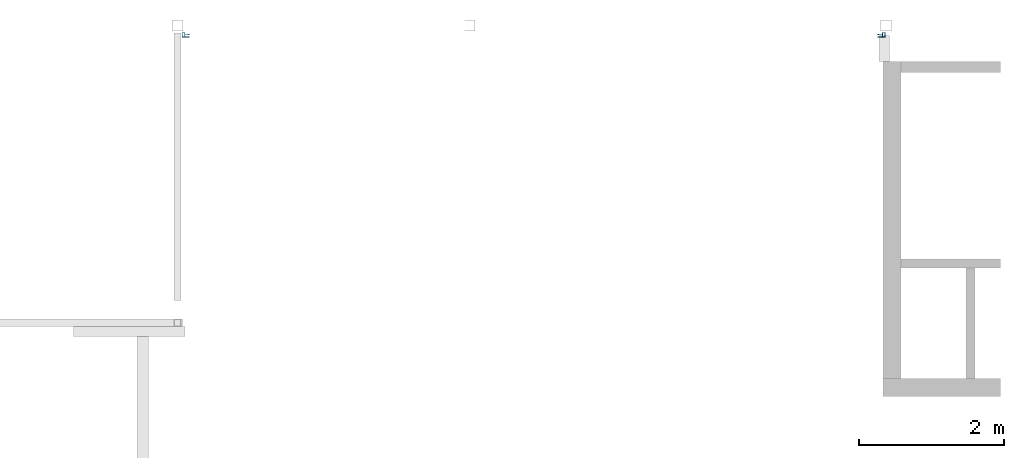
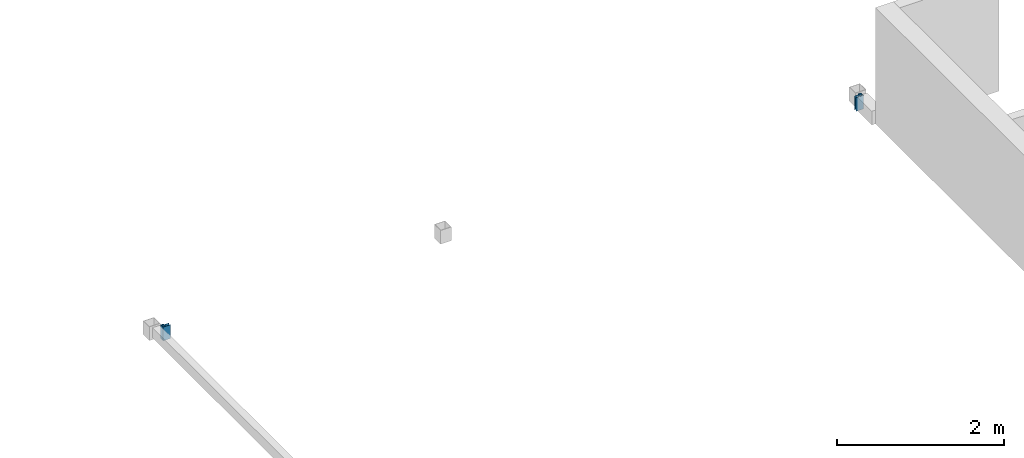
# One storey, part 2 of 2: 2 columns.
"""IFC2X3 building model written with IfcOpenShell, lengths in millimetres."""

from ifc_helpers import new_model, entity, si_unit, converted_unit, derived_unit, direction, frame, origin, origin_with_axes, place, context, subcontext, project, spatial, faceted_brep, source, transform, mapped, material, type_object, element, save


model = new_model("IFC2X3")

# Units and contexts
model_context = context("Model", 3, precision=0.01, world=frame((0.0, 4.29681676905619e-09, 0.0)), true_north=direction((4.01073788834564e-13, 1.0)))
plan_context = context("Plan", 3, precision=0.01, world=frame((0.0, 4.29681676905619e-09, 0.0)), true_north=direction((4.01073788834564e-13, 1.0)))
body_context = subcontext(model_context, "Body", "Model", "MODEL_VIEW")
ifc_project = project(units=[converted_unit("PLANEANGLEUNIT", "DEGREE", entity("IfcPositiveLengthMeasure", 0.0174532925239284), si_unit("PLANEANGLEUNIT", "RADIAN"), dimensions=[0, 0, 0, 0, 0, 0, 0]), si_unit("AREAUNIT", "SQUARE_METRE"), si_unit("LENGTHUNIT", "METRE", prefix="MILLI"), si_unit("MASSUNIT", "GRAM", prefix="KILO"), si_unit("POWERUNIT", "WATT"), si_unit("PRESSUREUNIT", "PASCAL"), si_unit("FORCEUNIT", "NEWTON", prefix="KILO"), si_unit("ELECTRICVOLTAGEUNIT", "VOLT"), si_unit("ELECTRICCURRENTUNIT", "AMPERE"), si_unit("THERMODYNAMICTEMPERATUREUNIT", "DEGREE_CELSIUS"), si_unit("TIMEUNIT", "SECOND"), si_unit("VOLUMEUNIT", "CUBIC_METRE"), derived_unit("LINEARVELOCITYUNIT", [(si_unit("LENGTHUNIT", "METRE"), 1), (si_unit("TIMEUNIT", "SECOND"), -1)]), derived_unit("VOLUMETRICFLOWRATEUNIT", [(si_unit("VOLUMEUNIT", "CUBIC_METRE"), 1), (si_unit("TIMEUNIT", "SECOND"), -1)]), derived_unit("THERMALTRANSMITTANCEUNIT", [(si_unit("POWERUNIT", "WATT"), 1), (si_unit("THERMODYNAMICTEMPERATUREUNIT", "KELVIN"), -1), (si_unit("AREAUNIT", "SQUARE_METRE"), -1)]), derived_unit("SOUNDPRESSUREUNIT", [(si_unit("PRESSUREUNIT", "PASCAL"), 1)])], contexts=[model_context, plan_context])

# Site, building, storey
site_placement = place(None, origin_with_axes())
site = spatial("IfcSite", under=ifc_project, at=site_placement, Name="ENGM", CompositionType="ELEMENT")
building_placement = place(site_placement, origin_with_axes())
building = spatial("IfcBuilding", under=site, at=building_placement, Name="TS", CompositionType="ELEMENT")
storey_placement = place(building_placement, frame((0.0, 0.0, 213700.0), z_axis=(0.0, 0.0, 1.0), x_axis=(1.0, 0.0, 0.0)))
storey = spatial("IfcBuildingStorey", under=building, at=storey_placement, Name="Nivå G - 2,0m", CompositionType="ELEMENT", Elevation=213700.0)

# Columns
ifc_material = material(Name="_NSW Stål")
column_type_1 = type_object("IfcColumnType", Name="A243 - Rullegardinskinner1:A243 - Portskinne Trav Val Innl", PredefinedType="COLUMN", material=ifc_material)
shared_shape_1 = source(origin(), body_context, "Body", "Brep", [
    faceted_brep([(-20.0, 100.0, 213900.0), (-14.0, 100.0, 213900.0), (-14.0, 100.0, 213700.0), (-20.0, 100.0, 213700.0), (-14.0, 90.0, 213900.0), (-14.0, 90.0, 213700.0), (-17.0, 90.0, 213900.0), (-17.0, 90.0, 213700.0), (-17.0, 38.0, 213900.0), (-17.0, 38.0, 213700.0), (17.0, 38.0, 213900.0), (17.0, 38.0, 213700.0), (17.0, 90.0, 213900.0), (17.0, 90.0, 213700.0), (14.0, 90.0, 213900.0), (14.0, 90.0, 213700.0), (14.0, 100.0, 213900.0), (14.0, 100.0, 213700.0), (20.0, 100.0, 213900.0), (20.0, 100.0, 213700.0), (20.0, 0.0, 213900.0), (20.0, 0.0, 213700.0), (-40.0, 0.0, 213900.0), (-40.0, 0.0, 213700.0), (-40.0, 38.0, 213900.0), (-40.0, 38.0, 213700.0), (-20.0, 38.0, 213900.0), (-20.0, 38.0, 213700.0), (-37.0, 3.0, 213900.0), (17.0, 3.0, 213900.0), (17.0, 3.0, 213700.0), (-37.0, 3.0, 213700.0), (17.0, 35.0, 213900.0), (17.0, 35.0, 213700.0), (-37.0, 35.0, 213900.0), (-37.0, 35.0, 213700.0)], [[[0, 1, 2, 3]], [[1, 4, 5, 2]], [[4, 6, 7, 5]], [[6, 8, 9, 7]], [[8, 10, 11, 9]], [[10, 12, 13, 11]], [[12, 14, 15, 13]], [[14, 16, 17, 15]], [[16, 18, 19, 17]], [[18, 20, 21, 19]], [[20, 22, 23, 21]], [[22, 24, 25, 23]], [[24, 26, 27, 25]], [[26, 0, 3, 27]], [[28, 29, 30, 31]], [[29, 32, 33, 30]], [[32, 34, 35, 33]], [[34, 28, 31, 35]], [[1, 0, 26, 24, 22, 20, 18, 16, 14, 12, 10, 8, 6, 4], [29, 28, 34, 32]], [[3, 2, 5, 7, 9, 11, 13, 15, 17, 19, 21, 23, 25, 27], [31, 30, 33, 35]]]),
])
column_1_placement = place(storey_placement, frame((525035.000000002, 461659.999999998, -213700.0), z_axis=(0.0, 0.0, 1.0), x_axis=(0.0, -1.0, 0.0)))
element("IfcColumn", 1, at=column_1_placement, inside=storey, type_object=column_type_1, material=ifc_material, Name="A243 - Rullegardinskinner1:A243 - Portskinne Trav Val Innl", ObjectType="A243 - Rullegardinskinner1:A243 - Portskinne Trav Val Innl", context=body_context, shape_type="MappedRepresentation", body=[
    mapped(shared_shape_1, transform((0.0, 0.0, 0.0), scale=1.0)),
])
column_type_2 = type_object("IfcColumnType", Name="A243 - Rullegardinskinner1:A243 - Portskinne Trav Val Innl", PredefinedType="COLUMN", material=ifc_material)
shared_shape_2 = source(origin(), body_context, "Body", "Brep", [
    faceted_brep([(-14.0, -100.0, 213900.0), (-20.0, -100.0, 213900.0), (-20.0, -100.0, 213700.0), (-14.0, -100.0, 213700.0), (-14.0, -90.0, 213900.0), (-14.0, -90.0, 213700.0), (-17.0, -90.0, 213900.0), (-17.0, -90.0, 213700.0), (-17.0, -38.0, 213900.0), (-17.0, -38.0, 213700.0), (17.0, -38.0, 213900.0), (17.0, -38.0, 213700.0), (17.0, -90.0, 213900.0), (17.0, -90.0, 213700.0), (14.0, -90.0, 213900.0), (14.0, -90.0, 213700.0), (14.0, -100.0, 213900.0), (14.0, -100.0, 213700.0), (20.0, -100.0, 213900.0), (20.0, -100.0, 213700.0), (20.0, 0.0, 213900.0), (20.0, 0.0, 213700.0), (-40.0, 0.0, 213900.0), (-40.0, 0.0, 213700.0), (-40.0, -38.0, 213900.0), (-40.0, -38.0, 213700.0), (-20.0, -38.0, 213900.0), (-20.0, -38.0, 213700.0), (17.0, -3.0, 213900.0), (-37.0, -3.0, 213900.0), (-37.0, -3.0, 213700.0), (17.0, -3.0, 213700.0), (17.0, -35.0, 213900.0), (17.0, -35.0, 213700.0), (-37.0, -35.0, 213900.0), (-37.0, -35.0, 213700.0)], [[[0, 1, 2, 3]], [[4, 0, 3, 5]], [[6, 4, 5, 7]], [[8, 6, 7, 9]], [[10, 8, 9, 11]], [[12, 10, 11, 13]], [[14, 12, 13, 15]], [[16, 14, 15, 17]], [[18, 16, 17, 19]], [[20, 18, 19, 21]], [[22, 20, 21, 23]], [[24, 22, 23, 25]], [[26, 24, 25, 27]], [[1, 26, 27, 2]], [[28, 29, 30, 31]], [[32, 28, 31, 33]], [[34, 32, 33, 35]], [[29, 34, 35, 30]], [[1, 0, 4, 6, 8, 10, 12, 14, 16, 18, 20, 22, 24, 26], [29, 28, 32, 34]], [[3, 2, 27, 25, 23, 21, 19, 17, 15, 13, 11, 9, 7, 5], [31, 30, 35, 33]]]),
])
column_2_placement = place(storey_placement, frame((534728.000000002, 461659.999999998, -213700.0), z_axis=(0.0, 0.0, 1.0), x_axis=(0.0, -1.0, 0.0)))
element("IfcColumn", 2, at=column_2_placement, inside=storey, type_object=column_type_2, material=ifc_material, Name="A243 - Rullegardinskinner1:A243 - Portskinne Trav Val Innl", ObjectType="A243 - Rullegardinskinner1:A243 - Portskinne Trav Val Innl", context=body_context, shape_type="MappedRepresentation", body=[
    mapped(shared_shape_2, transform((0.0, 0.0, 0.0), scale=1.0)),
])

save(model, "model.ifc")
